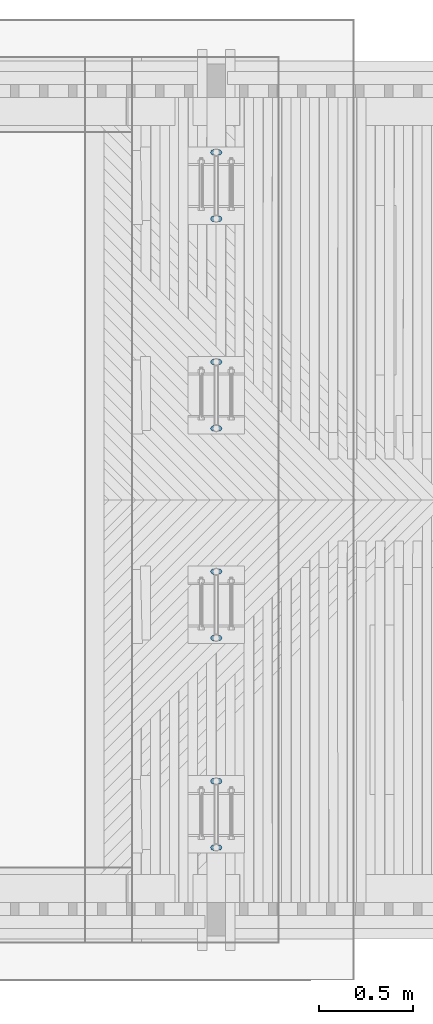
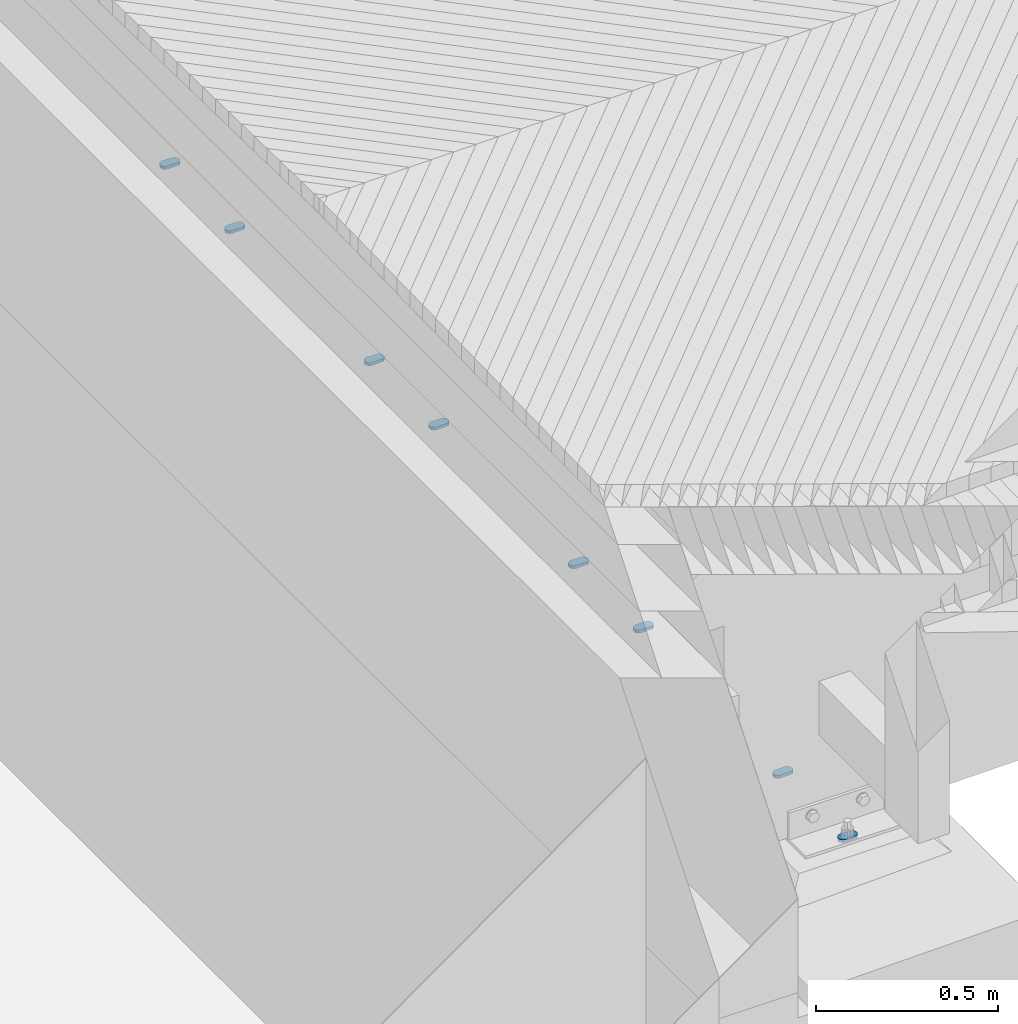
# One storey, part 4 of 52: 8 mechanical fasteners.
"""IFC2X3 building model written with IfcOpenShell, lengths in millimetres."""

from ifc_helpers import new_model, si_unit, frame, origin_with_axes, place, context, subcontext, project, spatial, faceted_brep, source, transform, mapped, material, type_object, element, save


model = new_model("IFC2X3")

# Units and contexts
model_context = context("Model", 3, precision=1e-05, world=origin_with_axes())
body_context = subcontext(model_context, "Body", "Model", "MODEL_VIEW")
ifc_project = project(units=[si_unit("LENGTHUNIT", "METRE", prefix="MILLI"), si_unit("AREAUNIT", "SQUARE_METRE"), si_unit("VOLUMEUNIT", "CUBIC_METRE"), si_unit("MASSUNIT", "GRAM", prefix="KILO"), si_unit("TIMEUNIT", "SECOND"), si_unit("PLANEANGLEUNIT", "RADIAN"), si_unit("SOLIDANGLEUNIT", "STERADIAN"), si_unit("THERMODYNAMICTEMPERATUREUNIT", "DEGREE_CELSIUS"), si_unit("LUMINOUSINTENSITYUNIT", "LUMEN")], contexts=[model_context])

# Site, building, storey
site_placement = place(None, origin_with_axes())
site = spatial("IfcSite", under=ifc_project, at=site_placement, Name="Undefined", CompositionType="ELEMENT")
building_placement = place(site_placement, origin_with_axes())
building = spatial("IfcBuilding", under=site, at=building_placement, Name="Undefined", CompositionType="ELEMENT")
storey_placement = place(building_placement, origin_with_axes())
storey = spatial("IfcBuildingStorey", under=building, at=storey_placement, Name="Undefined", CompositionType="ELEMENT", Elevation=0.0)

# Mechanical fasteners
ifc_material = material(Name="Undefined")
mechanical_fastener_type = type_object("IfcMechanicalFastenerType", Name="Bolt assembly")
shared_shape = source(origin_with_axes(), body_context, "Body", "Brep", [
    faceted_brep([(30.0, -9.99999999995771, 0.0), (28.8581929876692, -9.99999999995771, 5.7402514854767), (25.6066017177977, -9.99999999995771, 10.6066017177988), (20.7402514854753, -9.99999999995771, 13.8581929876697), (-15.0000000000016, -9.99999999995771, 15.0), (-22.5000000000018, -9.99999999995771, 12.9903810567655), (-27.9903810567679, -9.99999999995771, 7.49999999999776), (-30.0, -9.99999999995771, -3.10900794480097e-12), (-27.9903810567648, -9.99999999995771, -7.50000000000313), (-22.4999999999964, -9.99999999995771, -12.9903810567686), (-14.9999999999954, -9.99999999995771, -15.0), (15.0000000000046, -9.99999999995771, -15.0), (22.5000000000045, -9.99999999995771, -12.990381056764), (27.9903810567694, -9.99999999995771, -7.49999999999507), (30.0, 0.100000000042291, 0.0), (27.9903810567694, 0.100000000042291, -7.49999999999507), (22.5000000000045, 0.100000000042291, -12.990381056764), (15.0000000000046, 0.100000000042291, -15.0), (-14.9999999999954, 0.100000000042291, -15.0), (-22.4999999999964, 0.100000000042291, -12.9903810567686), (-27.9903810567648, 0.100000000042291, -7.50000000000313), (-30.0, 0.100000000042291, -3.10900794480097e-12), (-27.9903810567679, 0.100000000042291, 7.49999999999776), (-22.5000000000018, 0.100000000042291, 12.9903810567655), (-15.0000000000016, 0.100000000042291, 15.0), (20.7402514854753, 0.100000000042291, 13.8581929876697), (25.6066017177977, 0.100000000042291, 10.6066017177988), (28.8581929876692, 0.100000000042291, 5.7402514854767)], [[[0, 1, 2, 3, 4, 5, 6, 7, 8, 9, 10, 11, 12, 13]], [[14, 15, 16, 17, 18, 19, 20, 21, 22, 23, 24, 25, 26, 27]], [[0, 14, 27, 1]], [[1, 27, 26, 2]], [[2, 26, 25, 3]], [[3, 25, 24, 4]], [[4, 24, 23, 5]], [[5, 23, 22, 6]], [[6, 22, 21, 7]], [[7, 21, 20, 8]], [[8, 20, 19, 9]], [[9, 19, 18, 10]], [[10, 18, 17, 11]], [[11, 17, 16, 12]], [[12, 16, 15, 13]], [[13, 15, 14, 0]]]),
])
for number, where, z_axis, x_axis, name in (
    (1, (0.0, 2747.50000000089, 2007.32999999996), (0.0, -1.0, 0.0), (1.0, 0.0, 0.0), "Bolt assembly"),
    (2, (0.0, 3102.50000000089, 2007.32999999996), (0.0, -1.0, 0.0), (1.0, 0.0, 0.0), "Bolt assembly"),
    (3, (0.0, 3867.50000000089, 1985.32999999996), (0.0, -1.0, 0.0), (1.0, 0.0, 0.0), "Bolt assembly"),
    (4, (0.0, 4222.50000000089, 1985.32999999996), (0.0, -1.0, 0.0), (1.0, 0.0, 0.0), "Bolt assembly"),
    (5, (0.0, 1982.5, 2007.32999999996), (0.0, -1.0, 0.0), (1.0, 0.0, 0.0), "Bolt assembly"),
    (6, (0.0, 1627.5, 2007.32999999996), (0.0, -1.0, 0.0), (1.0, 0.0, 0.0), "Bolt assembly"),
    (7, (0.0, 862.5, 1985.32999999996), (0.0, -1.0, 0.0), (1.0, 0.0, 0.0), "Bolt assembly"),
    (8, (0.0, 507.5, 1985.32999999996), (0.0, -1.0, 0.0), (1.0, 0.0, 0.0), "Bolt assembly"),
):
    element("IfcMechanicalFastener", number, at=place(storey_placement, frame(where, z_axis=z_axis, x_axis=x_axis)), inside=storey, type_object=mechanical_fastener_type, material=ifc_material, Name=name, NominalDiameter=20.0, NominalLength=30.0, context=body_context, shape_type="MappedRepresentation", body=[
        mapped(shared_shape, transform((0.0, 0.0, 0.0))),
    ])

save(model, "model.ifc")
